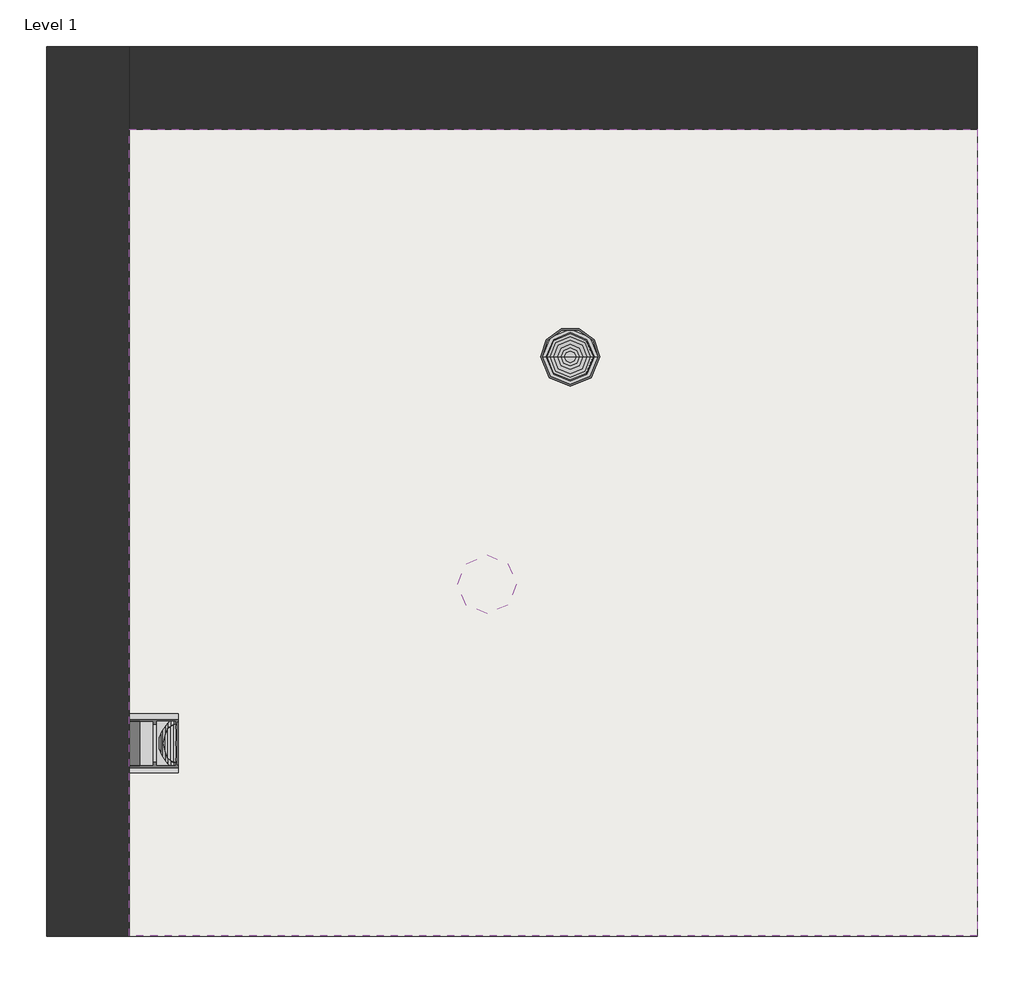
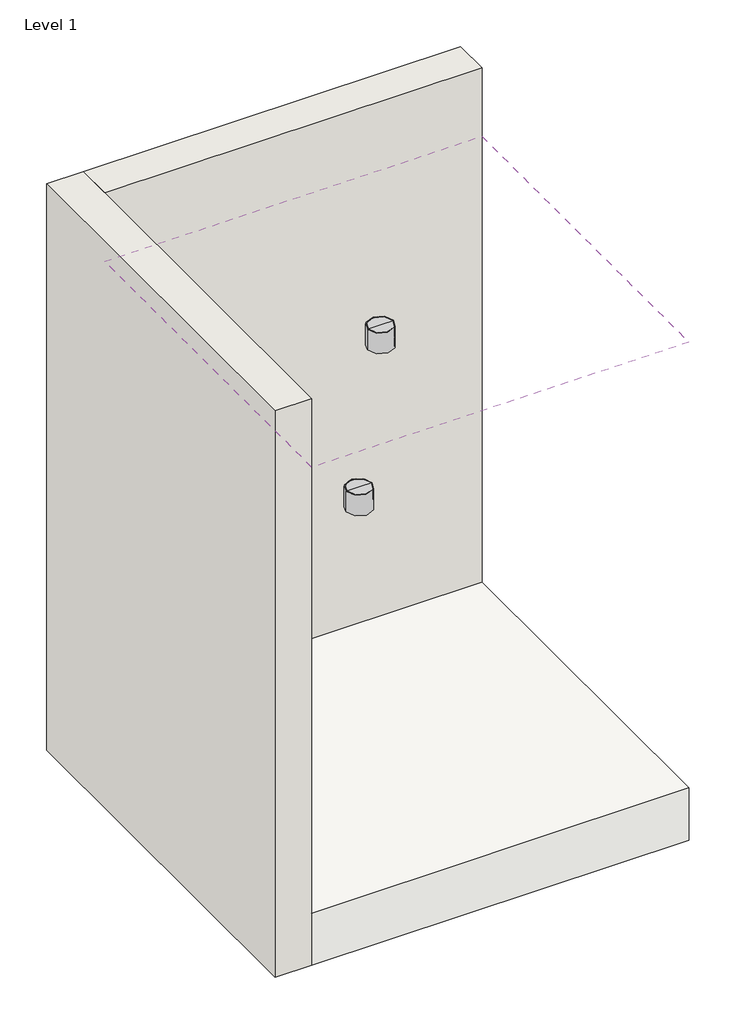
# One storey: 3 light fixtures, 2 walls, 1 covering, 1 slab.
"""IFC4 building model written with IfcOpenShell, lengths in millimetres."""

from ifc_helpers import new_model, si_unit, frame, origin, place, context, project, spatial, polyline, outline, extrude, faceted_brep, transform, mapped, element, save
from components import dl360_surface_mount_basic_cylinder_dcbcaecf

model = new_model("IFC4")

# Units and contexts
model_context = context("Model", 3, world=origin())
ifc_project = project(units=[si_unit("LENGTHUNIT", "METRE", prefix="MILLI")], contexts=[model_context])

# Site, building, storey
site = spatial("IfcSite", under=ifc_project)
building = spatial("IfcBuilding", under=site)
storey = spatial("IfcBuildingStorey", under=building, Name="Level 1", Elevation=0.0)

# Covering
placement = place(None, origin())
element("IfcCovering", 1, ObjectType="Ceiling 2", at=placement, inside=storey, context=model_context, shape_type="SweptSolid", body=[
    extrude(outline(polyline([(4291.0676417, 3741.7404022), (4291.0676417, 1760.5404022), (2208.2676417, 1760.5404022), (2208.2676417, 3741.7404022), (4291.0676417, 3741.7404022)])), frame((0.0, 0.0, 2600.0), z_axis=(0.0, 0.0, 1.0), x_axis=(1.0, 0.0, 0.0)), (0.0, 0.0, 1.0), 25.4),
])

# Light fixtures
dl360_surface_mount_basic_cylinder_shape = dl360_surface_mount_basic_cylinder_dcbcaecf(model_context)
element("IfcLightFixture", 2, ObjectType="DL360_SURFACE MOUNT BASIC CYLINDER : DL360WUE-DUN (IP65)", at=placement, inside=storey, context=model_context, shape_type="MappedRepresentation", body=[
    mapped(dl360_surface_mount_basic_cylinder_shape, transform((3086.6777316, 2657.9396904, 2600.0), x_axis=(1.0, 0.0, 0.0), y_axis=(0.0, 1.0, 0.0), z_axis=(0.0, 0.0, 1.0))),
])
element("IfcLightFixture", 3, ObjectType="DL360_SURFACE MOUNT BASIC CYLINDER : DL360WUE-DUN (IP65)", at=placement, inside=storey, context=model_context, shape_type="MappedRepresentation", body=[
    mapped(dl360_surface_mount_basic_cylinder_shape, transform((2208.2676417, 2233.7025307, 1134.7714181), x_axis=(0.0, 1.0, 0.0), y_axis=(0.0, 0.0, -1.0), z_axis=(-1.0, 0.0, 0.0))),
])
element("IfcLightFixture", 4, ObjectType="DL360_SURFACE MOUNT BASIC CYLINDER : DL360WUE-DUN (IP65)", at=placement, inside=storey, context=model_context, shape_type="MappedRepresentation", body=[
    mapped(dl360_surface_mount_basic_cylinder_shape, transform((3291.0676417, 3216.7396904, 1243.6102643), x_axis=(1.0, 0.0, 0.0), y_axis=(0.0, 1.0, 0.0), z_axis=(0.0, 0.0, 1.0))),
])

# Slab
element("IfcSlab", 5, ObjectType="Floor 1", at=placement, inside=storey, context=model_context, shape_type="SweptSolid", body=[
    extrude(outline(polyline([(4291.0676417, 3741.7404022), (4291.0676417, 1760.5404022), (2208.2676417, 1760.5404022), (2208.2676417, 3741.7404022), (4291.0676417, 3741.7404022)])), frame((0.0, 0.0, -304.8), z_axis=(0.0, 0.0, 1.0), x_axis=(1.0, 0.0, 0.0)), (0.0, 0.0, 1.0), 304.8),
])

# Walls
element("IfcWall", 6, ObjectType="Wall 1", at=placement, inside=storey, context=model_context, shape_type="Brep", body=[
    faceted_brep([(2005.0676417, 3944.9404022, -304.8), (2005.0676417, 1760.5404022, -304.8), (2005.0676417, 1760.5404022, 3000.0), (2005.0676417, 3944.9404022, 3000.0), (2208.2676417, 3944.9404022, -304.8), (2208.2676417, 3944.9404022, 3000.0), (2208.2676417, 3741.7404022, 3000.0), (2208.2676417, 1760.5404022, 3000.0), (2208.2676417, 1760.5404022, -304.8), (2208.2676417, 3741.7404022, -304.8)], [[[0, 1, 2, 3]], [[4, 5, 6, 7, 8, 9]], [[1, 0, 4, 9, 8]], [[2, 1, 8, 7]], [[3, 2, 7, 6, 5]], [[0, 3, 5, 4]]]),
])
element("IfcWall", 7, ObjectType="Wall 1", at=placement, inside=storey, context=model_context, shape_type="SweptSolid", body=[
    extrude(outline(polyline([(4291.0676417, 3741.7404022), (2208.2676417, 3741.7404022), (2208.2676417, 3944.9404022), (4291.0676417, 3944.9404022), (4291.0676417, 3741.7404022)])), frame((0.0, 0.0, -304.8), z_axis=(0.0, 0.0, 1.0), x_axis=(1.0, 0.0, 0.0)), (0.0, 0.0, 1.0), 3304.8),
])

save(model, "model.ifc")
